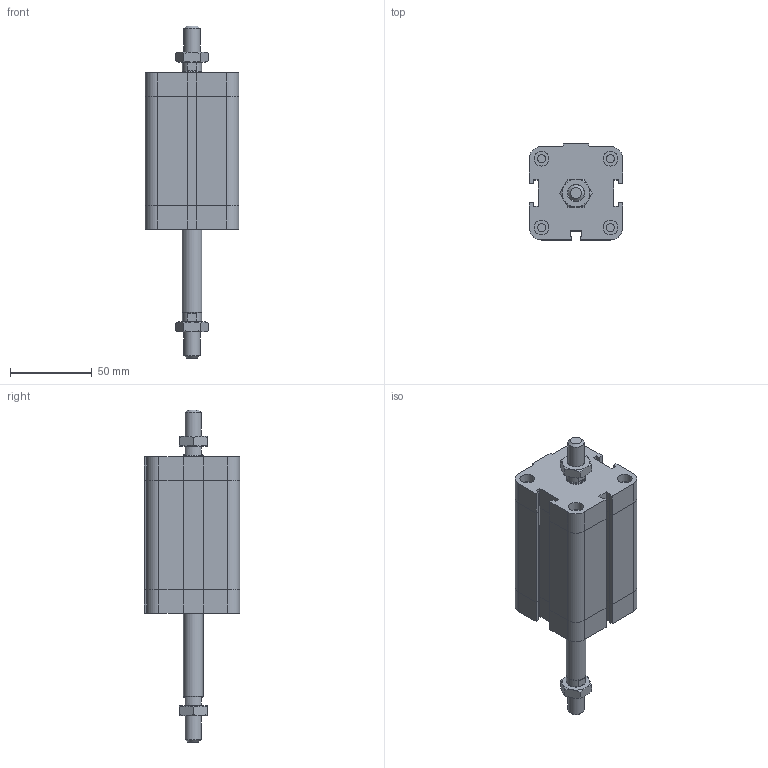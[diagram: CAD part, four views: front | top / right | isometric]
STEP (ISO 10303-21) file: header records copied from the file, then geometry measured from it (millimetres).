
FILE_DESCRIPTION((''),'2;1');
FILE_NAME('I:\Area Tecnica\Disegni\VARIE-3D\Componenti\EUROPE\15##_###_####_04_#\1581_40_0050_04_1.iam.stp','2009-04-20T14:51:41',(''),(''),'Autodesk Inventor 2009','Autodesk Inventor 2009','');
FILE_SCHEMA(('AUTOMOTIVE_DESIGN { 1 0 10303 214 1 1 1 1 }'));
Length unit declared in the file: millimetre
Products named in the file (4): 1581_40_0050_04_1; 1581_40_0050_03_1_C; 1561_40_0050_04_1_S; DBFM10
Assembly tree (4 placements, depth 2):
  1581_40_0050_04_1
    1581_40_0050_03_1_C
    1561_40_0050_04_1_S
    DBFM10  x2
Bounding box: 57 x 58.5 x 202.5 mm (x, y, z)
Volume: 296640.8 mm3; surface area: 47637.4 mm2
Topology: 4 solids, 4 shells, 222 faces, 483 edges, 289 vertices
Faces by surface type: plane 129, cone 35, bspline 33, cylinder 25
Full cylindrical faces by diameter (mm): 4.917 x4, 8.8 x1, 9 x4, 10 x1, 11.7 x2, 12 x1
Entity records: 5450 total; most frequent: CARTESIAN_POINT 1222, DIRECTION 802, ORIENTED_EDGE 772, EDGE_CURVE 386, AXIS2_PLACEMENT_3D 272, EDGE_LOOP 258, VECTOR 258, LINE 258
